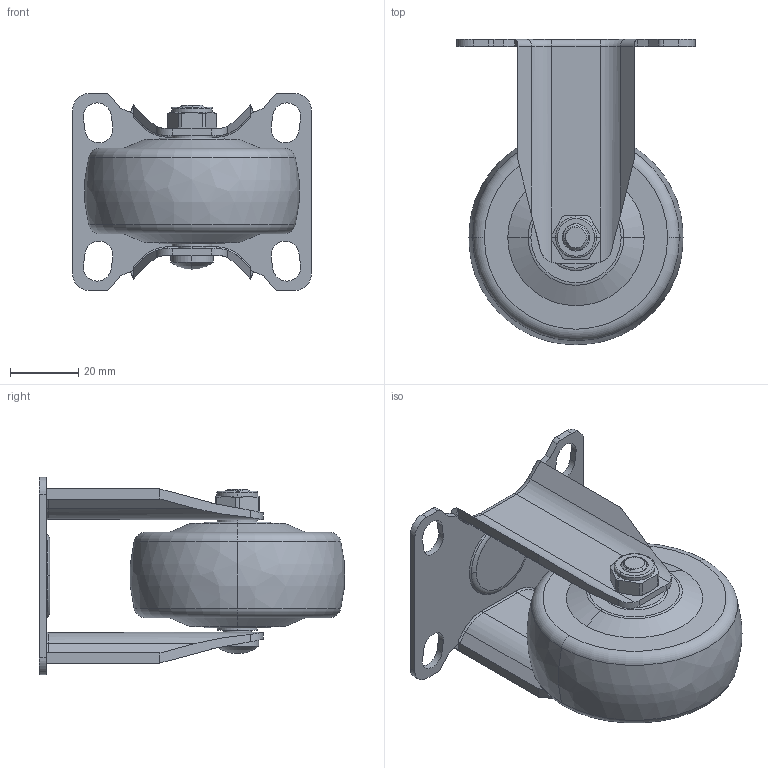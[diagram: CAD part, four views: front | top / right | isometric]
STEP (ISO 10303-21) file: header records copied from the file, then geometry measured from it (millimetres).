
FILE_DESCRIPTION((''),'2;1');
FILE_NAME('361025-3625-64_ASM','2020-01-03T',('L'),(''),'PRO/ENGINEER BY PARAMETRIC TECHNOLOGY CORPORATION, 2010280','PRO/ENGINEER BY PARAMETRIC TECHNOLOGY CORPORATION, 2010280','');
FILE_SCHEMA(('CONFIG_CONTROL_DESIGN'));
Length unit declared in the file: millimetre
Products named in the file (5): 361025; 3625-964; 350-33A; 300-34; 361025-3625-64_ASM
Assembly tree (4 placements, depth 2):
  361025-3625-64_ASM
    361025
    3625-964
    350-33A
    300-34
Bounding box: 70 x 89.36 x 57.8 mm (x, y, z)
Volume: 94773.9 mm3; surface area: 29150.2 mm2
Topology: 4 solids, 4 shells, 245 faces, 623 edges, 394 vertices
Faces by surface type: cylinder 90, plane 86, torus 26, bspline 21, cone 20, sphere 2
Entity records: 10947 total; most frequent: CARTESIAN_POINT 5024, ORIENTED_EDGE 1242, DIRECTION 1172, EDGE_CURVE 621, AXIS2_PLACEMENT_3D 442, VERTEX_POINT 394, VECTOR 288, LINE 288
